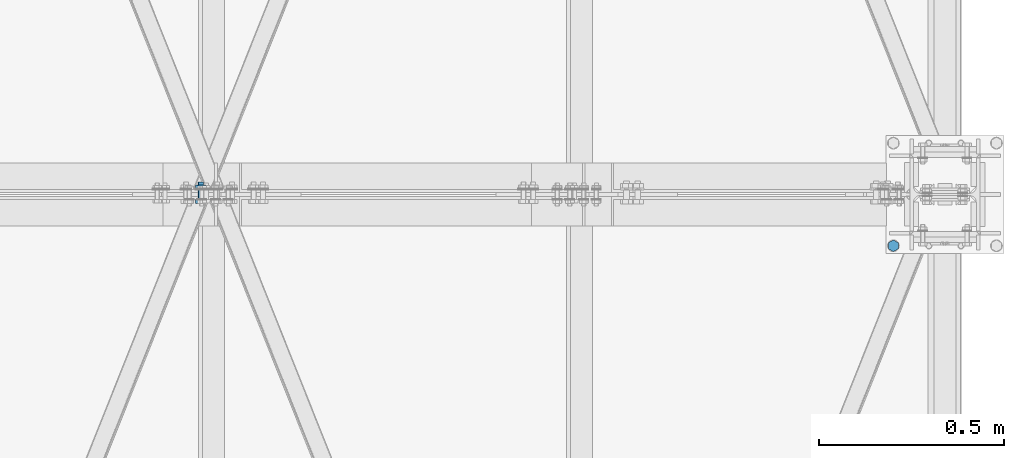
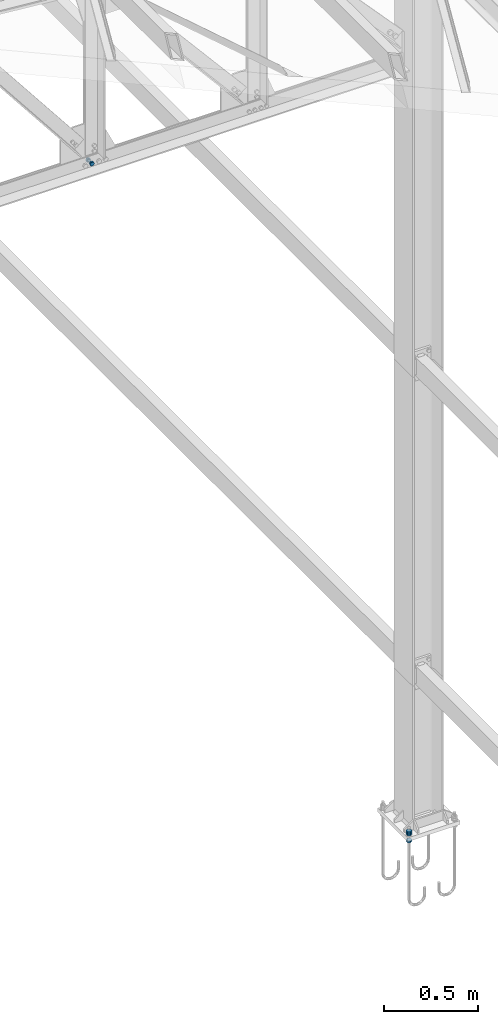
# One storey, part 175 of 251: 6 mechanical fasteners.
"""IFC4 building model written with IfcOpenShell, lengths in metres."""

from ifc_helpers import new_model, si_unit, frame, origin_with_axes, place, context, project, spatial, polyline, outline, extrude, type_object, element, save


model = new_model("IFC4")

# Units and contexts
model_context = context("Model", 3, precision=1e-05, world=origin_with_axes())
ifc_project = project(units=[si_unit("LENGTHUNIT", "METRE"), si_unit("AREAUNIT", "SQUARE_METRE"), si_unit("VOLUMEUNIT", "CUBIC_METRE"), si_unit("MASSUNIT", "GRAM", prefix="KILO"), si_unit("TIMEUNIT", "SECOND"), si_unit("PLANEANGLEUNIT", "RADIAN"), si_unit("SOLIDANGLEUNIT", "STERADIAN"), si_unit("THERMODYNAMICTEMPERATUREUNIT", "DEGREE_CELSIUS")], contexts=[model_context])

# Site, building, storey
placement_1 = place(None, origin_with_axes())
site = spatial("IfcSite", under=ifc_project, at=placement_1, Name="Italia", CompositionType="ELEMENT")
building = spatial("IfcBuilding", under=site, at=placement_1, Name="Deposito", CompositionType="ELEMENT")
storey = spatial("IfcBuildingStorey", under=building, at=placement_1, Name="Storey 0", CompositionType="ELEMENT", Elevation=0.0)

# Mechanical fasteners
mechanical_fastener_type_1 = type_object("IfcMechanicalFastenerType", Name="Collegamenti 0014_-001 0016_-054 0018_-056 0032_-002 0033_-058 0047_-003 0048_-060 0062_-004 0063_-005 0079_-008", PredefinedType="BOLT")
placement_2 = place(placement_1, origin_with_axes())
mechanical_fastener_1_placement = place(placement_2, origin_with_axes())
element("IfcMechanicalFastener", 1, at=mechanical_fastener_1_placement, inside=storey, type_object=mechanical_fastener_type_1, Name="Collegamenti 0014_-001 0016_-054 0018_-056 0032_-002 0033_-058 0047_-003 0048_-060 0062_-004 0063_-005 0079_-008", NominalDiameter=0.0160001, context=model_context, shape_type="SweptSolid", body=[
    extrude(outline(polyline([(0.0, 0.0), (-0.0160007, 0.0), (-0.0240002, 0.0138569), (-0.0160007, 0.0277138), (0.0, 0.0277138), (0.00799942, 0.0138569), (0.0, 0.0)])), frame((19.8744, 14.869, 0.079), z_axis=(0.0, 0.0, 1.0), x_axis=(0.0, 1.0, 0.0)), (0.0, 0.0, 1.0), 0.0128),
])
mechanical_fastener_type_2 = type_object("IfcMechanicalFastenerType", Name="Collegamenti 0014_-001 0016_-054 0018_-056 0032_-002 0033_-058 0047_-003 0048_-060 0062_-004 0063_-005 0079_-008", PredefinedType="BOLT")
mechanical_fastener_2_placement = place(placement_2, origin_with_axes())
element("IfcMechanicalFastener", 2, at=mechanical_fastener_2_placement, inside=storey, type_object=mechanical_fastener_type_2, Name="Collegamenti 0014_-001 0016_-054 0018_-056 0032_-002 0033_-058 0047_-003 0048_-060 0062_-004 0063_-005 0079_-008", NominalDiameter=0.0160001, context=model_context, shape_type="SweptSolid", body=[
    extrude(outline(polyline([(0.0, 0.0), (-0.0160007, 0.0), (-0.0240002, 0.0138569), (-0.0160007, 0.0277138), (0.0, 0.0277138), (0.00799942, 0.0138569), (0.0, 0.0)])), frame((19.8744, 14.869, 0.0918), z_axis=(0.0, 0.0, 1.0), x_axis=(0.0, 1.0, 0.0)), (0.0, 0.0, 1.0), 0.0128),
])
mechanical_fastener_type_3 = type_object("IfcMechanicalFastenerType", Name="Collegamenti 0014_-001 0016_-054 0018_-056 0032_-002 0033_-058 0047_-003 0048_-060 0062_-004 0063_-005 0079_-008", PredefinedType="BOLT")
mechanical_fastener_3_placement = place(placement_2, origin_with_axes())
element("IfcMechanicalFastener", 3, at=mechanical_fastener_3_placement, inside=storey, type_object=mechanical_fastener_type_3, Name="Collegamenti 0014_-001 0016_-054 0018_-056 0032_-002 0033_-058 0047_-003 0048_-060 0062_-004 0063_-005 0079_-008", NominalDiameter=0.0160001, context=model_context, shape_type="SweptSolid", body=[
    extrude(outline(polyline([(0.0, 0.0), (-0.0160007, 0.0), (-0.0240002, 0.0138569), (-0.0160007, 0.0277138), (0.0, 0.0277138), (0.00799942, 0.0138569), (0.0, 0.0)])), frame((19.8744, 14.869, 0.0332), z_axis=(0.0, 0.0, 1.0), x_axis=(0.0, 1.0, 0.0)), (0.0, 0.0, 1.0), 0.0128),
])
mechanical_fastener_type_4 = type_object("IfcMechanicalFastenerType", Name="Reticolare 5", PredefinedType="BOLT")
mechanical_fastener_4_placement = place(placement_2, origin_with_axes())
element("IfcMechanicalFastener", 4, at=mechanical_fastener_4_placement, inside=storey, type_object=mechanical_fastener_type_4, Name="Reticolare 5", NominalDiameter=0.0139997, context=model_context, shape_type="SweptSolid", body=[
    extrude(outline(polyline([(0.0, 0.0), (-0.0139999, 0.0), (-0.0209999, 0.0121241), (-0.0139999, 0.0242486), (0.0, 0.0242486), (0.00699997, 0.0121241), (0.0, 0.0)])), frame((17.9926, 14.987, 4.99688), z_axis=(0.0, -1.0, 0.0), x_axis=(1.0, 0.0, 0.0)), (0.0, 0.0, 1.0), 0.0112009),
])
mechanical_fastener_type_5 = type_object("IfcMechanicalFastenerType", Name="Reticolare 5", PredefinedType="BOLT")
mechanical_fastener_5_placement = place(placement_2, origin_with_axes())
element("IfcMechanicalFastener", 5, at=mechanical_fastener_5_placement, inside=storey, type_object=mechanical_fastener_type_5, Name="Reticolare 5", NominalDiameter=0.014, context=model_context, shape_type="SweptSolid", body=[
    extrude(outline(polyline([(0.0, 0.0), (-0.000238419, -0.0018115), (-0.000938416, -0.00349998), (-0.0020504, -0.00494957), (-0.00349998, -0.00606203), (-0.00518799, -0.00676155), (-0.00699997, -0.00699997), (-0.00881195, -0.00676155), (-0.0105, -0.00606203), (-0.0119495, -0.00494957), (-0.0130615, -0.00349998), (-0.0137615, -0.0018115), (-0.0139999, 0.0), (-0.0137615, 0.0018115), (-0.0130615, 0.00349998), (-0.0119495, 0.00494957), (-0.0105, 0.00606203), (-0.00881195, 0.00676155), (-0.00699997, 0.00699997), (-0.00518799, 0.00676155), (-0.00349998, 0.00606203), (-0.0020504, 0.00494957), (-0.000938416, 0.00349998), (-0.000238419, 0.0018115), (0.0, 0.0)])), frame((17.9926, 15.034, 5.009), z_axis=(0.0, -1.0, 0.0), x_axis=(1.0, 0.0, 0.0)), (0.0, 0.0, 1.0), 0.0469999),
])
mechanical_fastener_type_6 = type_object("IfcMechanicalFastenerType", Name="Reticolare 5", PredefinedType="BOLT")
mechanical_fastener_6_placement = place(placement_2, origin_with_axes())
element("IfcMechanicalFastener", 6, at=mechanical_fastener_6_placement, inside=storey, type_object=mechanical_fastener_type_6, Name="Reticolare 5", NominalDiameter=0.0139997, context=model_context, shape_type="SweptSolid", body=[
    extrude(outline(polyline([(0.0, 0.0), (-0.0139999, 0.0), (-0.0209999, 0.0121241), (-0.0139999, 0.0242486), (0.0, 0.0242486), (0.00699997, 0.0121241), (0.0, 0.0)])), frame((17.9926, 15.0262, 4.99688), z_axis=(0.0, -1.0, 0.0), x_axis=(1.0, 0.0, 0.0)), (0.0, 0.0, 1.0), 0.0112),
])

save(model, "model.ifc")
